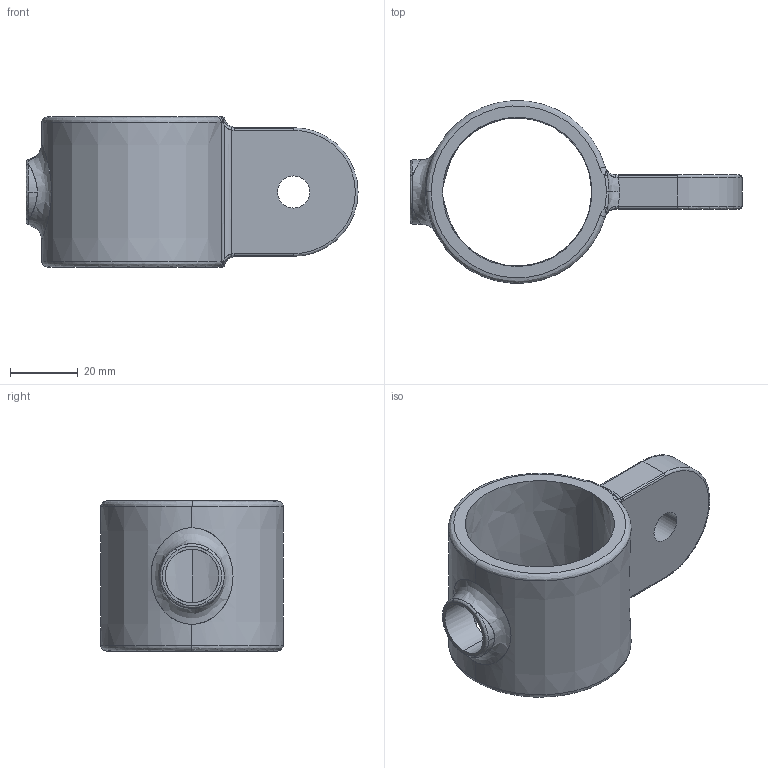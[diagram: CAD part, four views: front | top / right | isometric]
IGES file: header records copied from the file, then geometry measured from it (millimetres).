
Global section: file name: C:\Documents and Settings\Administrator\Desktop\Transfer Temp\kkm50-7.igs; native system: AutoDesk Inventor R2.0 ; preprocessor: AutoDesk Inventor Iges Exporter R2.0; author: No Author specified; organization: No Organization specified; date: 20020103.132432; units: inch
Bounding box: 98.3 x 54.02 x 44.45 mm (x, y, z)
Surface area: 18775.9 mm2 (no closed solid volume)
Topology: 0 solids, 0 shells, 67 faces, 329 edges, 329 vertices
Faces by surface type: bspline 36, revolution 31
